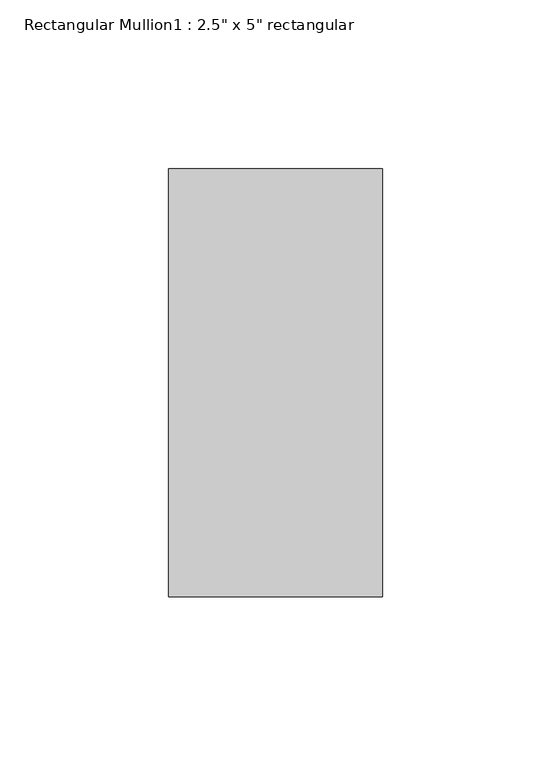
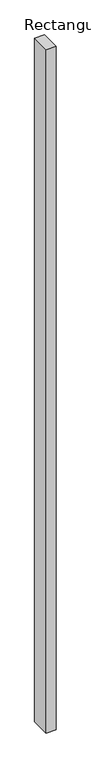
"""IFC4 building model written with IfcOpenShell, lengths in millimetres: member geometry."""

from ifc_helpers import new_model, si_unit, frame, origin, place, context, project, spatial, polyline, outline, extrude, source, transform, mapped, element, save


def member_5c8c9790(model_context):
    return source(origin(), model_context, "Body", "SweptSolid", [
        extrude(outline(polyline([(0.0, 63.5), (0.0, -63.5), (-63.5, -63.5), (-63.5, 63.5), (0.0, 63.5)])), frame((0.0, 0.0, -4629.15), z_axis=(0.0, 0.0, 1.0), x_axis=(1.0, 0.0, 0.0)), (0.0, 0.0, 1.0), 4629.15),
    ])


if __name__ == "__main__":
    model = new_model("IFC4")
    model_context = context("Model", 3, world=origin())
    ifc_project = project(units=[si_unit("LENGTHUNIT", "METRE", prefix="MILLI")], contexts=[model_context])
    site = spatial("IfcSite", under=ifc_project)
    building = spatial("IfcBuilding", under=site)
    placement = place(None, origin())
    member_shape = member_5c8c9790(model_context)
    element("IfcMember", 1, ObjectType="Rectangular Mullion1 : 2.5\" x 5\" rectangular", at=placement, inside=building, context=model_context, shape_type="MappedRepresentation", body=[
        mapped(member_shape, transform((0.0, 0.0, 0.0), x_axis=(1.0, 0.0, 0.0), y_axis=(0.0, 1.0, 0.0), z_axis=(0.0, 0.0, 1.0))),
    ])
    save(model, "model.ifc")
